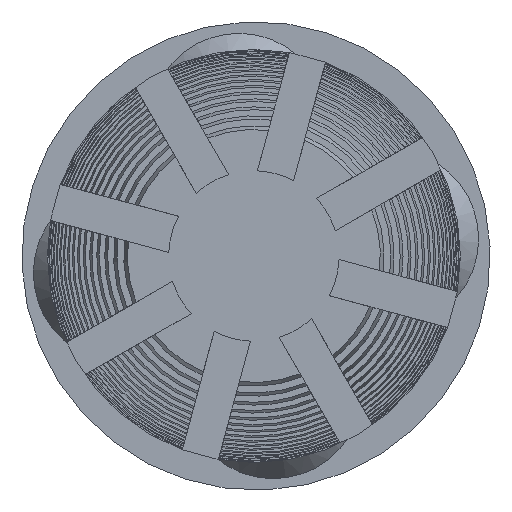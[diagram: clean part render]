
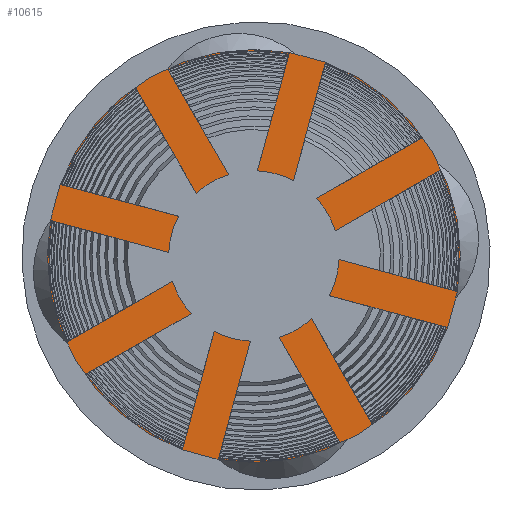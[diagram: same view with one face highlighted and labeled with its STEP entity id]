
A CAD part, left-side view. The second image highlights one B-rep face of the part: STEP entity #10615.
In plain terms, the highlighted planar face has unit normal (-1, 0, 0).
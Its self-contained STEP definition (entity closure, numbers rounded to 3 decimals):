
#261=FACE_BOUND('',#1192,.T.);
#276=PLANE('',#11261);
#582=FACE_OUTER_BOUND('',#1191,.T.);
#1191=EDGE_LOOP('',(#7120));
#1192=EDGE_LOOP('',(#7121));
#3407=CIRCLE('',#11262,22.045);
#3408=CIRCLE('',#11263,8.);
#4234=VERTEX_POINT('',#16004);
#4235=VERTEX_POINT('',#16006);
#5378=EDGE_CURVE('',#4234,#4234,#3407,.T.);
#5379=EDGE_CURVE('',#4235,#4235,#3408,.T.);
#7120=ORIENTED_EDGE('',*,*,#5378,.T.);
#7121=ORIENTED_EDGE('',*,*,#5379,.T.);
#10615=ADVANCED_FACE('',(#582,#261),#276,.T.);
#11261=AXIS2_PLACEMENT_3D('',#16003,#12622,#12623);
#11262=AXIS2_PLACEMENT_3D('',#16005,#12624,#12625);
#11263=AXIS2_PLACEMENT_3D('',#16007,#12626,#12627);
#12622=DIRECTION('center_axis',(-1.,0.,0.));
#12623=DIRECTION('ref_axis',(0.,0.,1.));
#12624=DIRECTION('center_axis',(-1.,0.,0.));
#12625=DIRECTION('ref_axis',(0.,0.,1.));
#12626=DIRECTION('center_axis',(1.,0.,0.));
#12627=DIRECTION('ref_axis',(0.,0.61,-0.792));
#16003=CARTESIAN_POINT('Origin',(1127.006,-1029.342,42.));
#16004=CARTESIAN_POINT('',(1127.006,-1029.342,19.955));
#16005=CARTESIAN_POINT('Origin',(1127.006,-1029.342,42.));
#16006=CARTESIAN_POINT('',(1127.006,-1023.002,46.88));
#16007=CARTESIAN_POINT('Origin',(1127.006,-1029.342,42.));
